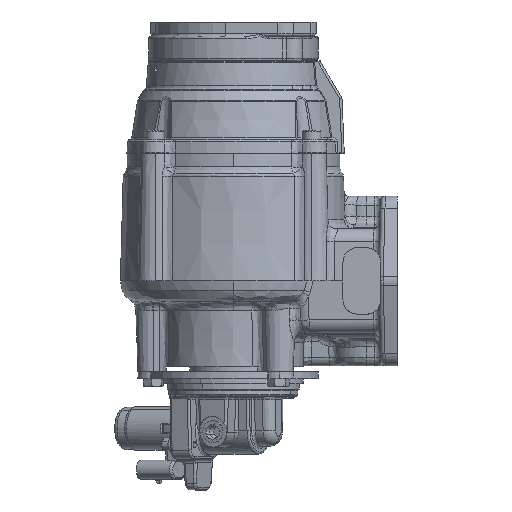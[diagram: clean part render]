
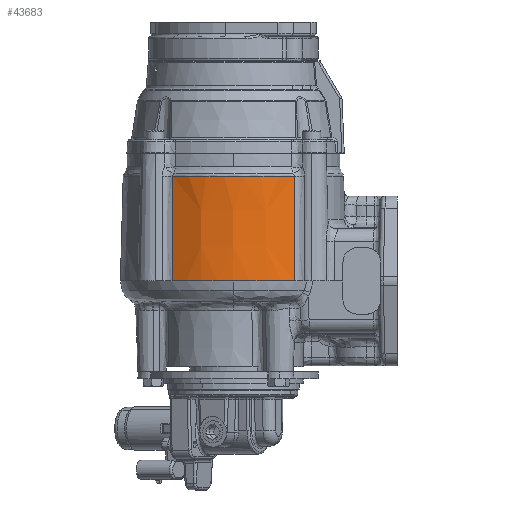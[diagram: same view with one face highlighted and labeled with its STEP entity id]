
A CAD part, left-side view. The second image highlights one B-rep face of the part: STEP entity #43683.
In plain terms, the highlighted conical face has half-angle 1.5 degrees and reference radius 76.073 mm.
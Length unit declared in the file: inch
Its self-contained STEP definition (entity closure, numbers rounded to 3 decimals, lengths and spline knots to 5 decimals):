
#1282 = VERTEX_POINT ( 'NONE', #140229 ) ;
#1322 = AXIS2_PLACEMENT_3D ( 'NONE', #114605, #111518, #124211 ) ;
#3604 = CARTESIAN_POINT ( 'NONE',  ( -3.45445, 1.89501, 0.96047 ) ) ;
#5929 = AXIS2_PLACEMENT_3D ( 'NONE', #138384, #29768, #110680 ) ;
#7262 = CARTESIAN_POINT ( 'NONE',  ( -3.4002, 5.14049, 2.77827 ) ) ;
#9241 = ORIENTED_EDGE ( 'NONE', *, *, #70499, .T. ) ;
#14178 = DIRECTION ( 'NONE',  ( 0., 0., -1. ) ) ;
#16874 = EDGE_CURVE ( 'NONE', #112047, #1282, #98001, .T. ) ;
#16997 = CARTESIAN_POINT ( 'NONE',  ( -3.4002, 5.14049, 2.77827 ) ) ;
#21095 = CIRCLE ( 'NONE', #5929, 2.995 ) ;
#23355 = ORIENTED_EDGE ( 'NONE', *, *, #16874, .F. ) ;
#27161 = EDGE_CURVE ( 'NONE', #153096, #128214, #76626, .T. ) ;
#28169 = CARTESIAN_POINT ( 'NONE',  ( -3.42697, 1.89734, 1.88656 ) ) ;
#29768 = DIRECTION ( 'NONE',  ( 0., 0., -1. ) ) ;
#42201 = CARTESIAN_POINT ( 'NONE',  ( -3.4002, 1.89928, 2.77827 ) ) ;
#42301 = ORIENTED_EDGE ( 'NONE', *, *, #123975, .T. ) ;
#43683 = ADVANCED_FACE ( 'NONE', ( #113837 ), #155673, .T. ) ;
#46408 = VERTEX_POINT ( 'NONE', #42201 ) ;
#53317 = CARTESIAN_POINT ( 'NONE',  ( -3.42696, 5.14244, 1.88658 ) ) ;
#68970 = ORIENTED_EDGE ( 'NONE', *, *, #27161, .T. ) ;
#70499 = EDGE_CURVE ( 'NONE', #112047, #46408, #86611, .T. ) ;
#73362 = CARTESIAN_POINT ( 'NONE',  ( -3.48267, 5.14745, 0. ) ) ;
#73464 = CARTESIAN_POINT ( 'NONE',  ( -3.48267, 1.89232, 0. ) ) ;
#75221 = CARTESIAN_POINT ( 'NONE',  ( -0.9685, 3.51989, 2.77827 ) ) ;
#76626 = B_SPLINE_CURVE_WITH_KNOTS ( 'NONE', 3,
 ( #7262, #53317, #102430, #151575 ),
 .UNSPECIFIED., .F., .F.,
 ( 4, 4 ),
 ( 0., 1. ),
 .UNSPECIFIED. ) ;
#77309 = CARTESIAN_POINT ( 'NONE',  ( -3.4002, 1.89928, 2.77827 ) ) ;
#80189 = AXIS2_PLACEMENT_3D ( 'NONE', #140443, #117423, #103977 ) ;
#85473 = CIRCLE ( 'NONE', #113277, 2.92225 ) ;
#86611 = B_SPLINE_CURVE_WITH_KNOTS ( 'NONE', 3,
 ( #113729, #3604, #28169, #77309 ),
 .UNSPECIFIED., .F., .F.,
 ( 4, 4 ),
 ( 0., 1. ),
 .UNSPECIFIED. ) ;
#98001 = CIRCLE ( 'NONE', #80189, 2.995 ) ;
#102430 = CARTESIAN_POINT ( 'NONE',  ( -3.45445, 5.14477, 0.96049 ) ) ;
#103977 = DIRECTION ( 'NONE',  ( 1., 0., 0. ) ) ;
#104119 = EDGE_LOOP ( 'NONE', ( #23355, #9241, #42301, #68970, #117329 ) ) ;
#110680 = DIRECTION ( 'NONE',  ( 1., 0., 0. ) ) ;
#111518 = DIRECTION ( 'NONE',  ( 0., 0., -1. ) ) ;
#112047 = VERTEX_POINT ( 'NONE', #73464 ) ;
#113277 = AXIS2_PLACEMENT_3D ( 'NONE', #75221, #14178, #122012 ) ;
#113729 = CARTESIAN_POINT ( 'NONE',  ( -3.48267, 1.89232, 0. ) ) ;
#113837 = FACE_OUTER_BOUND ( 'NONE', #104119, .T. ) ;
#114605 = CARTESIAN_POINT ( 'NONE',  ( -0.9685, 3.51989, 0. ) ) ;
#117329 = ORIENTED_EDGE ( 'NONE', *, *, #118838, .F. ) ;
#117423 = DIRECTION ( 'NONE',  ( 0., 0., -1. ) ) ;
#118838 = EDGE_CURVE ( 'NONE', #1282, #128214, #21095, .T. ) ;
#122012 = DIRECTION ( 'NONE',  ( -1., 0., 0. ) ) ;
#123975 = EDGE_CURVE ( 'NONE', #46408, #153096, #85473, .T. ) ;
#124211 = DIRECTION ( 'NONE',  ( 0., 1., 0. ) ) ;
#128214 = VERTEX_POINT ( 'NONE', #73362 ) ;
#138384 = CARTESIAN_POINT ( 'NONE',  ( -0.9685, 3.51989, 0. ) ) ;
#140229 = CARTESIAN_POINT ( 'NONE',  ( -3.9635, 3.51989, 0. ) ) ;
#140443 = CARTESIAN_POINT ( 'NONE',  ( -0.9685, 3.51989, 0. ) ) ;
#151575 = CARTESIAN_POINT ( 'NONE',  ( -3.48267, 5.14745, 0. ) ) ;
#153096 = VERTEX_POINT ( 'NONE', #16997 ) ;
#155673 = CONICAL_SURFACE ( 'NONE', #1322, 2.995, 0.026 ) ;
